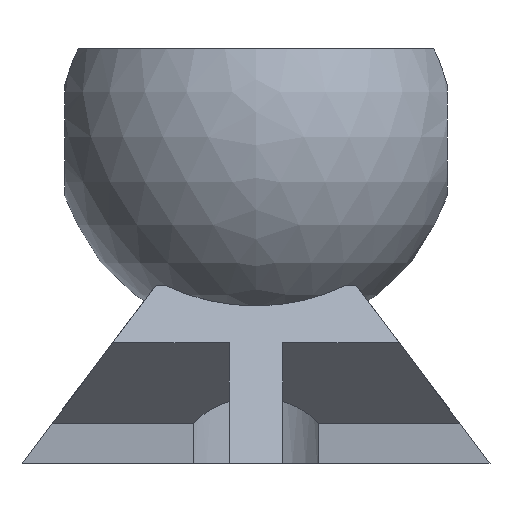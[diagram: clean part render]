
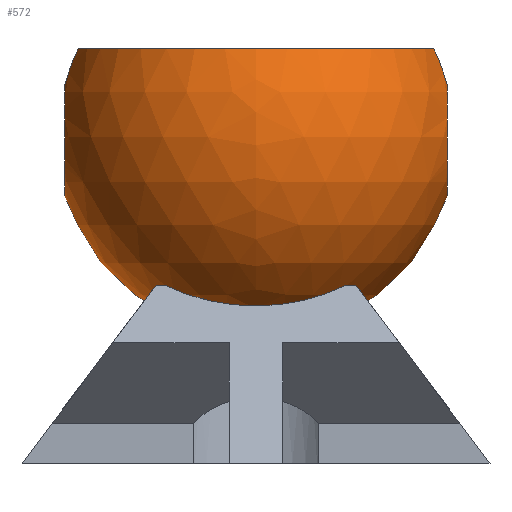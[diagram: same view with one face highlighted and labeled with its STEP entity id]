
A CAD part, left-side view. The second image highlights one B-rep face of the part: STEP entity #572.
In plain terms, the highlighted spherical face has radius 30 mm.
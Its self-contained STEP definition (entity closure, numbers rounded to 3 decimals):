
#33=SPHERICAL_SURFACE('',#639,30.);
#66=FACE_OUTER_BOUND('',#98,.T.);
#98=EDGE_LOOP('',(#420,#421,#422,#423,#424,#425,#426,#427,#428,#429,#430,
#431));
#213=CIRCLE('',#610,6.);
#216=CIRCLE('',#615,9.);
#218=CIRCLE('',#618,29.58);
#220=CIRCLE('',#621,29.58);
#222=CIRCLE('',#624,29.58);
#224=CIRCLE('',#627,9.);
#226=CIRCLE('',#630,29.58);
#228=CIRCLE('',#633,27.037);
#229=CIRCLE('',#635,27.037);
#230=CIRCLE('',#636,27.037);
#233=CIRCLE('',#640,30.);
#238=VERTEX_POINT('',#848);
#242=VERTEX_POINT('',#858);
#243=VERTEX_POINT('',#860);
#245=VERTEX_POINT('',#866);
#247=VERTEX_POINT('',#872);
#250=VERTEX_POINT('',#879);
#251=VERTEX_POINT('',#881);
#253=VERTEX_POINT('',#887);
#255=VERTEX_POINT('',#893);
#256=VERTEX_POINT('',#900);
#295=EDGE_CURVE('',#238,#238,#213,.T.);
#300=EDGE_CURVE('',#243,#242,#216,.T.);
#303=EDGE_CURVE('',#245,#243,#218,.T.);
#307=EDGE_CURVE('',#242,#247,#220,.T.);
#310=EDGE_CURVE('',#251,#250,#222,.T.);
#314=EDGE_CURVE('',#250,#253,#224,.T.);
#317=EDGE_CURVE('',#253,#255,#226,.T.);
#319=EDGE_CURVE('',#255,#245,#228,.T.);
#320=EDGE_CURVE('',#256,#251,#229,.T.);
#321=EDGE_CURVE('',#247,#256,#230,.T.);
#324=EDGE_CURVE('',#256,#238,#233,.T.);
#420=ORIENTED_EDGE('',*,*,#310,.T.);
#421=ORIENTED_EDGE('',*,*,#314,.T.);
#422=ORIENTED_EDGE('',*,*,#317,.T.);
#423=ORIENTED_EDGE('',*,*,#319,.T.);
#424=ORIENTED_EDGE('',*,*,#303,.T.);
#425=ORIENTED_EDGE('',*,*,#300,.T.);
#426=ORIENTED_EDGE('',*,*,#307,.T.);
#427=ORIENTED_EDGE('',*,*,#321,.T.);
#428=ORIENTED_EDGE('',*,*,#324,.T.);
#429=ORIENTED_EDGE('',*,*,#295,.T.);
#430=ORIENTED_EDGE('',*,*,#324,.F.);
#431=ORIENTED_EDGE('',*,*,#320,.T.);
#572=ADVANCED_FACE('',(#66),#33,.T.);
#610=AXIS2_PLACEMENT_3D('',#849,#676,#677);
#615=AXIS2_PLACEMENT_3D('',#861,#688,#689);
#618=AXIS2_PLACEMENT_3D('',#867,#695,#696);
#621=AXIS2_PLACEMENT_3D('',#874,#703,#704);
#624=AXIS2_PLACEMENT_3D('',#882,#710,#711);
#627=AXIS2_PLACEMENT_3D('',#889,#718,#719);
#630=AXIS2_PLACEMENT_3D('',#895,#725,#726);
#633=AXIS2_PLACEMENT_3D('',#898,#731,#732);
#635=AXIS2_PLACEMENT_3D('',#901,#735,#736);
#636=AXIS2_PLACEMENT_3D('',#902,#737,#738);
#639=AXIS2_PLACEMENT_3D('',#906,#743,#744);
#640=AXIS2_PLACEMENT_3D('',#907,#745,#746);
#676=DIRECTION('center_axis',(0.,0.,1.));
#677=DIRECTION('ref_axis',(1.,0.,0.));
#688=DIRECTION('center_axis',(0.,1.,0.));
#689=DIRECTION('ref_axis',(0.556,0.,0.831));
#695=DIRECTION('center_axis',(1.,0.,0.));
#696=DIRECTION('ref_axis',(0.,0.,1.));
#703=DIRECTION('center_axis',(-1.,0.,0.));
#704=DIRECTION('ref_axis',(0.,0.,-1.));
#710=DIRECTION('center_axis',(-1.,0.,0.));
#711=DIRECTION('ref_axis',(0.,0.,-1.));
#718=DIRECTION('center_axis',(0.,-1.,0.));
#719=DIRECTION('ref_axis',(0.556,0.,0.831));
#725=DIRECTION('center_axis',(1.,0.,0.));
#726=DIRECTION('ref_axis',(0.,0.,1.));
#731=DIRECTION('center_axis',(0.,0.,-1.));
#732=DIRECTION('ref_axis',(0.,-1.,0.));
#735=DIRECTION('center_axis',(0.,0.,-1.));
#736=DIRECTION('ref_axis',(0.,-1.,0.));
#737=DIRECTION('center_axis',(0.,0.,-1.));
#738=DIRECTION('ref_axis',(0.,-1.,0.));
#743=DIRECTION('center_axis',(0.,0.,1.));
#744=DIRECTION('ref_axis',(1.,0.,0.));
#745=DIRECTION('center_axis',(0.,-1.,0.));
#746=DIRECTION('ref_axis',(-1.,0.,0.));
#848=CARTESIAN_POINT('',(-6.,0.,-29.394));
#849=CARTESIAN_POINT('Origin',(0.,0.,-29.394));
#858=CARTESIAN_POINT('',(-5.,-28.618,7.483));
#860=CARTESIAN_POINT('',(5.,-28.618,7.483));
#861=CARTESIAN_POINT('Origin',(0.,-28.618,0.));
#866=CARTESIAN_POINT('',(5.,-26.571,13.));
#867=CARTESIAN_POINT('Origin',(5.,0.,0.));
#872=CARTESIAN_POINT('',(-5.,-26.571,13.));
#874=CARTESIAN_POINT('Origin',(-5.,0.,0.));
#879=CARTESIAN_POINT('',(-5.,28.618,7.483));
#881=CARTESIAN_POINT('',(-5.,26.571,13.));
#882=CARTESIAN_POINT('Origin',(-5.,0.,0.));
#887=CARTESIAN_POINT('',(5.,28.618,7.483));
#889=CARTESIAN_POINT('Origin',(0.,28.618,0.));
#893=CARTESIAN_POINT('',(5.,26.571,13.));
#895=CARTESIAN_POINT('Origin',(5.,0.,0.));
#898=CARTESIAN_POINT('Origin',(0.,0.,13.));
#900=CARTESIAN_POINT('',(-27.037,0.,13.));
#901=CARTESIAN_POINT('Origin',(0.,0.,13.));
#902=CARTESIAN_POINT('Origin',(0.,0.,13.));
#906=CARTESIAN_POINT('Origin',(0.,0.,0.));
#907=CARTESIAN_POINT('Origin',(0.,0.,0.));
